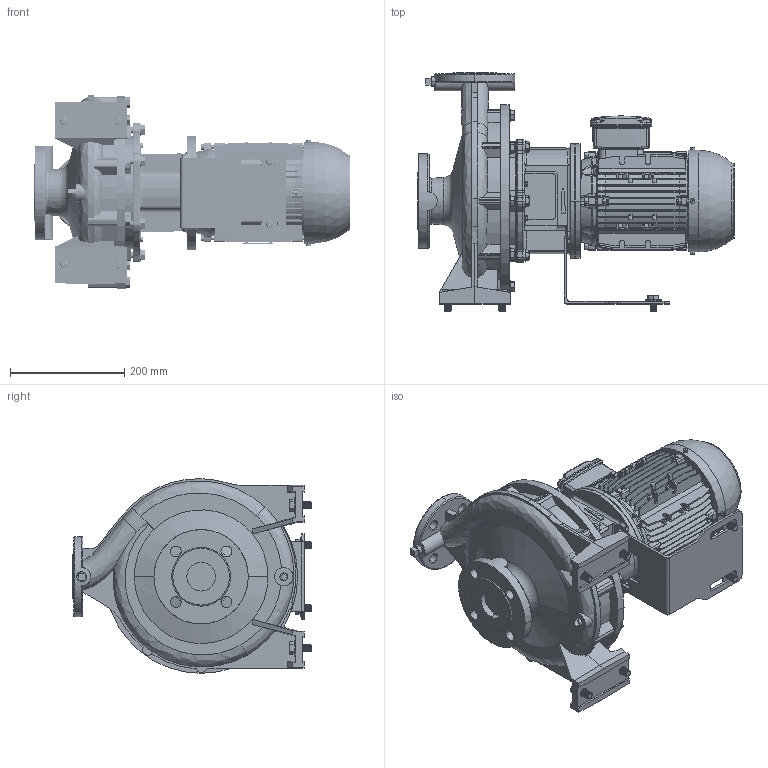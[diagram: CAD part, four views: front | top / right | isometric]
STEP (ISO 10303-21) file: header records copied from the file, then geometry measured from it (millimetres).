
FILE_DESCRIPTION (( 'STEP AP214' ), '1' );
FILE_NAME ('GSD4 32-250_1.1 & 1.5_(90SL)_W21.STEP', '2026-06-18T05:20:57', ( '' ), ( '' ), 'SwSTEP 2.0', 'SolidWorks 2024', '' );
FILE_SCHEMA (( 'AUTOMOTIVE_DESIGN' ));
Length unit declared in the file: millimetre
Products named in the file (7): GSD4 32-250_1.1 & 1.5_(90SL)_W21; 90S_L ALIE3_W21T_B5; Parametric bolt_SFT-A295B; Parametric bolt_SFT-A299B; CGSD1-4173; 32-250-90S_L_ﾃﾞﾌｫﾙﾄ; Parametric Flat Washer_M12
Assembly tree (15 placements, depth 2):
  GSD4 32-250_1.1 & 1.5_(90SL)_W21
    32-250-90S_L_ﾃﾞﾌｫﾙﾄ
    90S_L ALIE3_W21T_B5
    CGSD1-4173
    Parametric bolt_SFT-A295B  x2
    Parametric bolt_SFT-A299B  x4
    Parametric Flat Washer_M12  x6
Bounding box: 554 x 418 x 340.5 mm (x, y, z)
Volume: 15395039.7 mm3; surface area: 1276255.1 mm2
Topology: 25 solids, 29 shells, 3933 faces, 10297 edges, 6611 vertices
Faces by surface type: plane 2020, cylinder 1083, torus 297, bspline 261, cone 250, sphere 22
Entity records: 192489 total; most frequent: CARTESIAN_POINT 104125, ORIENTED_EDGE 19234, DIRECTION 17101, EDGE_CURVE 9617, VERTEX_POINT 6198, AXIS2_PLACEMENT_3D 5818, LINE 5465, VECTOR 5465
